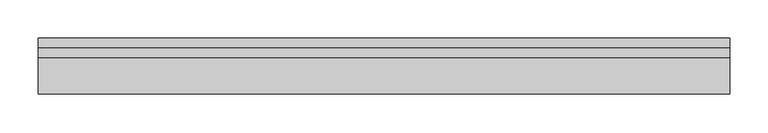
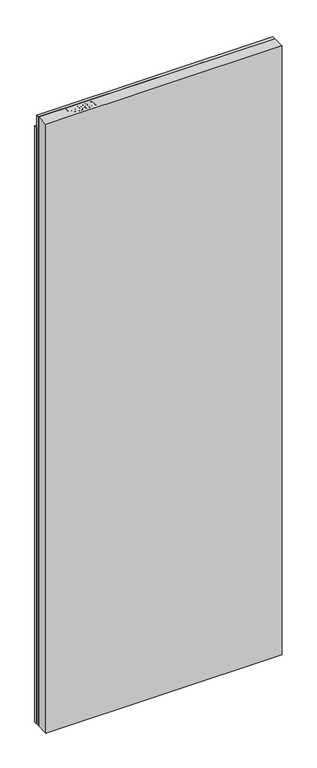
"""IFC4 building model written with IfcOpenShell, lengths in millimetres: proxy geometry, ParedeGeral_Blufab : Parede Geral - Largura 90 cm."""

from ifc_helpers import new_model, si_unit, origin, origin_with_axes, place, context, project, spatial, polyline, outline, extrude, source, transform, mapped, element, save


def generic_models_7c24a650(model_context):
    return source(origin(), model_context, "Body", "SweptSolid", [
        extrude(outline(polyline([(900.0, -12.5), (0.0, -12.5), (0.0, 0.0), (900.0, 0.0), (900.0, -12.5)])), origin_with_axes(), (0.0, 0.0, 1.0), 2400.0),
        extrude(outline(polyline([(900.0, -25.0126803), (0.0, -25.0126803), (0.0, -12.5126803), (900.0, -12.5126803), (900.0, -25.0126803)])), origin_with_axes(), (0.0, 0.0, 1.0), 2450.0),
        extrude(outline(polyline([(900.0, -73.0), (0.0, -73.0), (0.0, -25.0126803), (900.0, -25.0126803), (900.0, -73.0)])), origin_with_axes(), (0.0, 0.0, 1.0), 2450.0),
        extrude(outline(polyline([(100.0857709, -32.9961157), (103.8528825, -32.9961157), (103.8528825, -45.2392285), (111.5121857, -45.2392285), (120.2640983, -47.9026941), (122.6884407, -54.4142055), (121.7908086, -58.5234473), (119.4179697, -61.4370727), (115.7575439, -62.8460608), (111.2546683, -63.1330087), (100.0857709, -63.1330087), (100.0857709, -32.9961157)]), holes=[polyline([(103.8528825, -49.0063401), (103.8528825, -59.3658971), (111.6446232, -59.3658971), (115.4117348, -59.1083797), (117.9537994, -57.4014073), (118.921329, -54.2817679), (117.2805753, -50.3895764), (111.7329149, -49.0063401), (103.8528825, -49.0063401)])]), origin_with_axes(), (0.0, 0.0, 1.0), 2450.0),
        extrude(outline(polyline([(141.9948878, -44.7683395), (150.470889, -44.7683395), (150.470889, -39.323686), (146.6559527, -37.259868), (141.5019259, -36.2923384), (135.759288, -37.5762465), (131.6390096, -41.5052262), (130.2226639, -48.0719199), (131.3998863, -53.9874623), (133.3386244, -56.8900513), (136.6201318, -59.0237669), (141.4430648, -59.8367861), (145.6773866, -59.082628), (148.6130849, -57.0739923), (150.3310938, -53.5901498), (153.8038998, -54.5687159), (151.5267103, -59.5535169), (147.3953955, -62.5333611), (141.5019259, -63.6038977), (133.5703901, -61.7571301), (128.2912835, -56.1101415), (126.4555523, -47.9174094), (128.2986411, -39.9049396), (133.7580099, -34.419819), (141.8035891, -32.5252267), (148.1936994, -33.7171644), (154.2380006, -37.2709045), (154.2380006, -48.5354512), (141.9948878, -48.5354512), (141.9948878, -44.7683395)])), origin_with_axes(), (0.0, 0.0, 1.0), 2450.0),
        extrude(outline(polyline([(159.4177791, -40.530339), (162.1180329, -34.6258329), (167.9084955, -32.5252267), (173.7247099, -34.3057756), (177.4660698, -39.4892329), (178.7242262, -48.6384581), (177.4623909, -57.0703135), (173.7688557, -61.5584738), (168.4014574, -63.1330087), (161.6434651, -60.3738938), (158.9468901, -53.0898303), (161.5183853, -46.0338536), (167.8128462, -43.3556727), (171.944161, -44.451961), (174.9791875, -46.5709613), (174.4347221, -42.2005232), (173.2023174, -38.9263735), (171.1348206, -37.0097083), (168.0850789, -36.2923384), (164.8771479, -37.4070208), (163.1848907, -41.0012279), (159.4177791, -40.530339)]), holes=[polyline([(174.9571146, -53.178122), (173.2538209, -48.7304286), (168.9091346, -47.1227843), (164.384186, -48.7304286), (162.7140018, -52.9058893), (164.4798353, -57.5669542), (169.0121415, -59.3658971), (173.3310761, -57.6957129), (174.9571146, -53.178122)])]), origin_with_axes(), (0.0, 0.0, 1.0), 2450.0),
        extrude(outline(polyline([(182.0204489, -47.8217601), (185.0223659, -35.3947063), (191.9091169, -32.5252267), (197.423668, -34.1770169), (200.7014966, -39.1875697), (201.7977849, -47.8217601), (201.1135244, -54.9034885), (199.3476908, -59.3622183), (196.3089856, -62.1618003), (191.9091169, -63.1330087), (186.4166387, -61.492255), (183.1277737, -56.4927387), (182.0204489, -47.8217601)]), holes=[polyline([(185.7875605, -47.8291177), (187.6122552, -57.3499038), (191.8649711, -59.3658971), (196.3237008, -57.0776711), (198.0306733, -47.8291177), (196.2648397, -38.4812362), (191.9091169, -36.2923384), (187.5533941, -38.4738786), (185.7875605, -47.8291177)])]), origin_with_axes(), (0.0, 0.0, 1.0), 2450.0),
    ])


if __name__ == "__main__":
    model = new_model("IFC4")
    model_context = context("Model", 3, world=origin())
    ifc_project = project(units=[si_unit("LENGTHUNIT", "METRE", prefix="MILLI")], contexts=[model_context])
    site = spatial("IfcSite", under=ifc_project)
    building = spatial("IfcBuilding", under=site)
    placement = place(None, origin())
    generic_models_shape = generic_models_7c24a650(model_context)
    element("IfcBuildingElementProxy", 1, Name="ParedeGeral_Blufab : Parede Geral - Largura 90 cm", ObjectType="ParedeGeral_Blufab : Parede Geral - Largura 90 cm", at=placement, inside=building, context=model_context, shape_type="MappedRepresentation", body=[
        mapped(generic_models_shape, transform((0.0, 0.0, 0.0), x_axis=(1.0, 0.0, 0.0), y_axis=(0.0, 1.0, 0.0), z_axis=(0.0, 0.0, 1.0))),
    ])
    save(model, "model.ifc")
